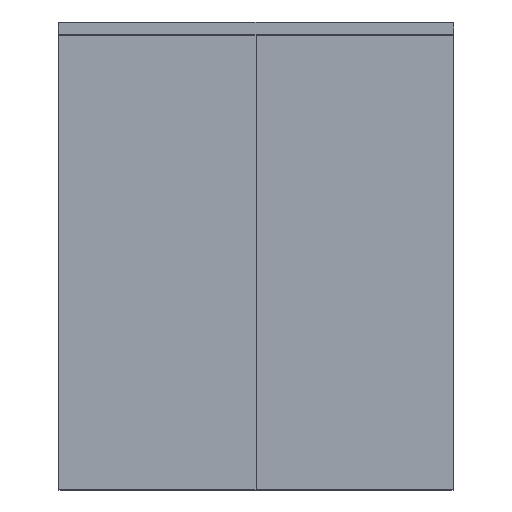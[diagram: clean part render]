
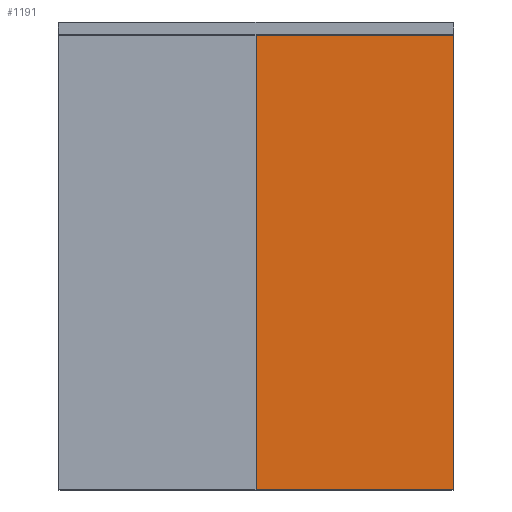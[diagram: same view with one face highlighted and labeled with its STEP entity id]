
A CAD part, top view. The second image highlights one B-rep face of the part: STEP entity #1191.
In plain terms, the highlighted planar face has unit normal (0, 0, 1) as drawn and (0, -1, 0) by its records, which use the part's own axes.
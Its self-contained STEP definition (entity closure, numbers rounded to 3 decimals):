
#36 = PLANE ( 'NONE',  #1411 ) ;
#78 = CARTESIAN_POINT ( 'NONE',  ( 150., 0., -345. ) ) ;
#80 = VECTOR ( 'NONE', #221, 1000. ) ;
#143 = DIRECTION ( 'NONE',  ( 0., 0., 1. ) ) ;
#221 = DIRECTION ( 'NONE',  ( 0., 0., -1. ) ) ;
#256 = DIRECTION ( 'NONE',  ( -1., 0., 0. ) ) ;
#416 = EDGE_CURVE ( 'NONE', #1050, #2167, #1702, .T. ) ;
#514 = CARTESIAN_POINT ( 'NONE',  ( -150., 0., 345. ) ) ;
#529 = CARTESIAN_POINT ( 'NONE',  ( -150., 0., -345. ) ) ;
#610 = VERTEX_POINT ( 'NONE', #529 ) ;
#663 = CARTESIAN_POINT ( 'NONE',  ( 150., 0., 345. ) ) ;
#688 = ORIENTED_EDGE ( 'NONE', *, *, #2269, .F. ) ;
#848 = CARTESIAN_POINT ( 'NONE',  ( 0., 0., 0. ) ) ;
#871 = DIRECTION ( 'NONE',  ( 1., 0., 0. ) ) ;
#957 = CARTESIAN_POINT ( 'NONE',  ( 150., 0., 345. ) ) ;
#998 = DIRECTION ( 'NONE',  ( 0., 0., -1. ) ) ;
#1025 = CARTESIAN_POINT ( 'NONE',  ( -150., 0., 345. ) ) ;
#1050 = VERTEX_POINT ( 'NONE', #1025 ) ;
#1054 = LINE ( 'NONE', #663, #80 ) ;
#1111 = EDGE_CURVE ( 'NONE', #2529, #610, #2266, .T. ) ;
#1191 = ADVANCED_FACE ( 'NONE', ( #1850 ), #36, .T. ) ;
#1286 = VECTOR ( 'NONE', #143, 1000. ) ;
#1373 = EDGE_CURVE ( 'NONE', #2167, #2529, #1054, .T. ) ;
#1411 = AXIS2_PLACEMENT_3D ( 'NONE', #848, #1772, #998 ) ;
#1416 = CARTESIAN_POINT ( 'NONE',  ( -150., 0., -345. ) ) ;
#1702 = LINE ( 'NONE', #514, #1868 ) ;
#1761 = ORIENTED_EDGE ( 'NONE', *, *, #416, .F. ) ;
#1772 = DIRECTION ( 'NONE',  ( 0., -1., 0. ) ) ;
#1850 = FACE_OUTER_BOUND ( 'NONE', #1855, .T. ) ;
#1855 = EDGE_LOOP ( 'NONE', ( #2591, #1761, #688, #2324 ) ) ;
#1868 = VECTOR ( 'NONE', #871, 1000. ) ;
#1933 = LINE ( 'NONE', #1958, #1286 ) ;
#1958 = CARTESIAN_POINT ( 'NONE',  ( -150., 0., 345. ) ) ;
#2167 = VERTEX_POINT ( 'NONE', #957 ) ;
#2266 = LINE ( 'NONE', #1416, #2437 ) ;
#2269 = EDGE_CURVE ( 'NONE', #610, #1050, #1933, .T. ) ;
#2324 = ORIENTED_EDGE ( 'NONE', *, *, #1111, .F. ) ;
#2437 = VECTOR ( 'NONE', #256, 1000. ) ;
#2529 = VERTEX_POINT ( 'NONE', #78 ) ;
#2591 = ORIENTED_EDGE ( 'NONE', *, *, #1373, .F. ) ;
